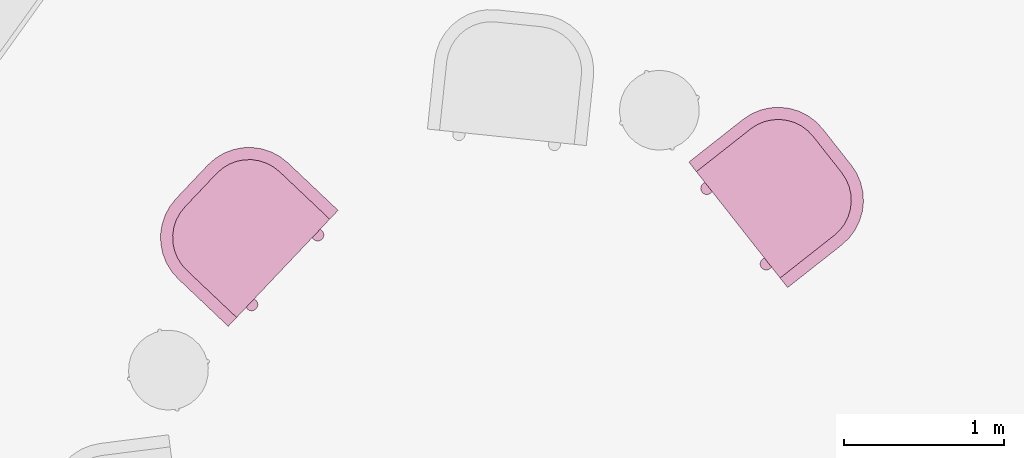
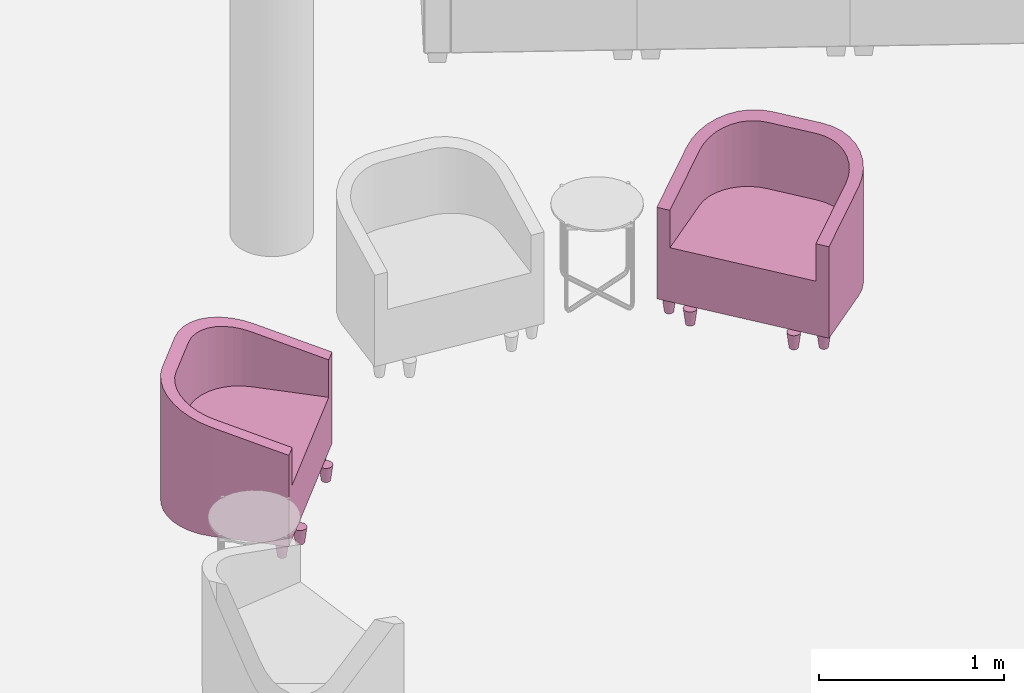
# One storey, part 21 of 36: 2 furnishings.
"""IFC2X3 building model written with IfcOpenShell, lengths in metres."""

from ifc_helpers import new_model, entity, si_unit, converted_unit, derived_unit, money_unit, direction, frame, origin_with_axes, place, context, subcontext, project, spatial, faceted_brep, source, transform, mapped, type_object, element, save


model = new_model("IFC2X3")

# Units and contexts
model_context = context("Model", 3, precision=1e-05, world=origin_with_axes(), true_north=direction((0.0, 1.0)))
body_context = subcontext(model_context, "Body", "Model", "MODEL_VIEW")
ifc_project = project(units=[si_unit("LENGTHUNIT", "METRE"), si_unit("AREAUNIT", "SQUARE_METRE"), si_unit("VOLUMEUNIT", "CUBIC_METRE"), converted_unit("PLANEANGLEUNIT", "DEGREE", entity("IfcPlaneAngleMeasure", 0.0174532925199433), si_unit("PLANEANGLEUNIT", "RADIAN"), dimensions=[0, 0, 0, 0, 0, 0, 0]), money_unit("EUR"), converted_unit("TIMEUNIT", "Year", entity("IfcTimeMeasure", 31556926.0), si_unit("TIMEUNIT", "SECOND"), dimensions=[0, 0, 1, 0, 0, 0, 0]), si_unit("MASSUNIT", "GRAM", prefix="KILO"), si_unit("THERMODYNAMICTEMPERATUREUNIT", "DEGREE_CELSIUS"), si_unit("LUMINOUSINTENSITYUNIT", "LUMEN"), si_unit("ENERGYUNIT", "JOULE", prefix="MEGA"), derived_unit("THERMALCONDUCTANCEUNIT", [(si_unit("POWERUNIT", "WATT"), 1), (si_unit("LENGTHUNIT", "METRE"), -1), (si_unit("THERMODYNAMICTEMPERATUREUNIT", "KELVIN"), -1)]), derived_unit("SPECIFICHEATCAPACITYUNIT", [(si_unit("ENERGYUNIT", "JOULE"), 1), (si_unit("MASSUNIT", "GRAM", prefix="KILO"), -1), (si_unit("THERMODYNAMICTEMPERATUREUNIT", "KELVIN"), -1)]), derived_unit("MASSDENSITYUNIT", [(si_unit("MASSUNIT", "GRAM", prefix="KILO"), 1), (si_unit("VOLUMEUNIT", "CUBIC_METRE"), -1)])], contexts=[model_context])

# Site, building, storey
site_placement = place(None, frame((-3.949935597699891, 1.740105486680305, 0.0), z_axis=(0.0, 0.0, 1.0), x_axis=(0.8799804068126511, -0.475009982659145, 0.0)))
site = spatial("IfcSite", under=ifc_project, at=site_placement, Name="Gelände", CompositionType="ELEMENT")
building_placement = place(site_placement, origin_with_axes())
building = spatial("IfcBuilding", under=site, at=building_placement, Name="Gebäude", CompositionType="ELEMENT")
storey_placement = place(building_placement, origin_with_axes())
storey = spatial("IfcBuildingStorey", under=building, at=storey_placement, Name="Erdgeschoss", CompositionType="ELEMENT", Elevation=0.0)

# Furnishings
furniture_type = type_object("IfcFurnitureType", Name="bucket chair (1)", AssemblyPlace="NOTDEFINED")
shared_shape = source(origin_with_axes(), body_context, "Body", "Brep", [
    faceted_brep([(0.47421411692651, 0.73188933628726, 0.0), (0.4746, 0.7363000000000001, 0.0), (0.4873, 0.7363000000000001, 0.1016), (0.4867211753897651, 0.72968400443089, 0.1016), (0.473068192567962, 0.7276126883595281, 0.0), (0.4711970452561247, 0.7236000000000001, 0.0), (0.468657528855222, 0.719973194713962, 0.0), (0.4655268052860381, 0.7168424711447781, 0.0), (0.4619, 0.7143029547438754, 0.0), (0.457887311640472, 0.712431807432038, 0.0), (0.45361066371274, 0.71128588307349, 0.0), (0.4492, 0.7109000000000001, 0.0), (0.44478933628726, 0.71128588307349, 0.0), (0.440512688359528, 0.712431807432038, 0.0), (0.4365, 0.7143029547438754, 0.0), (0.4328731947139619, 0.7168424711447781, 0.0), (0.429742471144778, 0.719973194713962, 0.0), (0.4272029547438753, 0.7236000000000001, 0.0), (0.4253318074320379, 0.7276126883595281, 0.0), (0.4241858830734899, 0.73188933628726, 0.0), (0.4238, 0.7363000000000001, 0.0), (0.4241858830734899, 0.7407106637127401, 0.0), (0.4253318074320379, 0.744987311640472, 0.0), (0.4272029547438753, 0.7490000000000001, 0.0), (0.429742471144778, 0.7526268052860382, 0.0), (0.4328731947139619, 0.7557575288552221, 0.0), (0.4365, 0.7582970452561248, 0.0), (0.440512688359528, 0.7601681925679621, 0.0), (0.44478933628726, 0.7613141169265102, 0.0), (0.4492, 0.7617, 0.0), (0.45361066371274, 0.7613141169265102, 0.0), (0.457887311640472, 0.7601681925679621, 0.0), (0.4619, 0.7582970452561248, 0.0), (0.4655268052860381, 0.7557575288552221, 0.0), (0.468657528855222, 0.7526268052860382, 0.0), (0.4711970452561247, 0.7490000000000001, 0.0), (0.4730681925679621, 0.744987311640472, 0.0), (0.4742141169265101, 0.7407106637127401, 0.0), (0.4867211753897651, 0.7429159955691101, 0.1016), (0.4850022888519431, 0.749330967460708, 0.1016), (0.4821955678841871, 0.7553500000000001, 0.1016), (0.4783862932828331, 0.7607902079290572, 0.1016), (0.4736902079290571, 0.7654862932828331, 0.1016), (0.46825, 0.7692955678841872, 0.1016), (0.462230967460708, 0.7721022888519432, 0.1016), (0.45581599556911, 0.7738211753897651, 0.1016), (0.4492, 0.7744000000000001, 0.1016), (0.44258400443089, 0.7738211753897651, 0.1016), (0.436169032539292, 0.7721022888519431, 0.1016), (0.43015, 0.7692955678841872, 0.1016), (0.4247097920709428, 0.7654862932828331, 0.1016), (0.420013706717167, 0.7607902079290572, 0.1016), (0.4162044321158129, 0.7553500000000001, 0.1016), (0.4133977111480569, 0.749330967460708, 0.1016), (0.4116788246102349, 0.7429159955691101, 0.1016), (0.4111, 0.7363000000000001, 0.1016), (0.4116788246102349, 0.72968400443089, 0.1016), (0.4133977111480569, 0.7232690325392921, 0.1016), (0.4162044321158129, 0.71725, 0.1016), (0.420013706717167, 0.711809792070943, 0.1016), (0.4247097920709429, 0.707113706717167, 0.1016), (0.43015, 0.703304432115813, 0.1016), (0.436169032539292, 0.700497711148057, 0.1016), (0.44258400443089, 0.698778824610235, 0.1016), (0.4492, 0.6982000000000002, 0.1016), (0.45581599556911, 0.698778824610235, 0.1016), (0.462230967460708, 0.700497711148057, 0.1016), (0.4682499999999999, 0.7033044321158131, 0.1016), (0.4736902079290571, 0.707113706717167, 0.1016), (0.478386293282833, 0.711809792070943, 0.1016), (0.482195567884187, 0.71725, 0.1016), (0.485002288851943, 0.7232690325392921, 0.1016)], [[[0, 1, 2, 3]], [[0, 4, 5, 6, 7, 8, 9, 10, 11, 12, 13, 14, 15, 16, 17, 18, 19, 20, 21, 22, 23, 24, 25, 26, 27, 28, 29, 30, 31, 32, 33, 34, 35, 36, 37, 1]], [[1, 37, 38, 2]], [[3, 2, 38, 39, 40, 41, 42, 43, 44, 45, 46, 47, 48, 49, 50, 51, 52, 53, 54, 55, 56, 57, 58, 59, 60, 61, 62, 63, 64, 65, 66, 67, 68, 69, 70, 71]], [[4, 0, 3, 71]], [[5, 4, 71, 70]], [[6, 5, 70, 69]], [[7, 6, 69, 68]], [[8, 7, 68, 67]], [[9, 8, 67, 66]], [[10, 9, 66, 65]], [[11, 10, 65, 64]], [[12, 11, 64, 63]], [[13, 12, 63, 62]], [[14, 13, 62, 61]], [[15, 14, 61, 60]], [[16, 15, 60, 59]], [[17, 16, 59, 58]], [[18, 17, 58, 57]], [[19, 18, 57, 56]], [[20, 19, 56, 55]], [[21, 20, 55, 54]], [[22, 21, 54, 53]], [[23, 22, 53, 52]], [[24, 23, 52, 51]], [[25, 24, 51, 50]], [[26, 25, 50, 49]], [[27, 26, 49, 48]], [[28, 27, 48, 47]], [[29, 28, 47, 46]], [[30, 29, 46, 45]], [[31, 30, 45, 44]], [[32, 31, 44, 43]], [[33, 32, 43, 42]], [[34, 33, 42, 41]], [[35, 34, 41, 40]], [[36, 35, 40, 39]], [[37, 36, 39, 38]]]),
    faceted_brep([(-0.42418588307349, 0.73188933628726, 0.0), (-0.4238, 0.7363000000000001, 0.0), (-0.4111, 0.7363000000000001, 0.1016), (-0.4116788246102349, 0.72968400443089, 0.1016), (-0.425331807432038, 0.7276126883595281, 0.0), (-0.4272029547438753, 0.7236000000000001, 0.0), (-0.429742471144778, 0.719973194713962, 0.0), (-0.4328731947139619, 0.7168424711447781, 0.0), (-0.4365, 0.7143029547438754, 0.0), (-0.440512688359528, 0.712431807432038, 0.0), (-0.44478933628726, 0.71128588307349, 0.0), (-0.4492, 0.7109000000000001, 0.0), (-0.45361066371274, 0.71128588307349, 0.0), (-0.457887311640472, 0.712431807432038, 0.0), (-0.4619, 0.7143029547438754, 0.0), (-0.4655268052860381, 0.7168424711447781, 0.0), (-0.468657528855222, 0.719973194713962, 0.0), (-0.4711970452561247, 0.7236000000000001, 0.0), (-0.4730681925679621, 0.7276126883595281, 0.0), (-0.4742141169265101, 0.73188933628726, 0.0), (-0.4746, 0.7363000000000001, 0.0), (-0.4742141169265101, 0.7407106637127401, 0.0), (-0.4730681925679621, 0.744987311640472, 0.0), (-0.4711970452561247, 0.7490000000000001, 0.0), (-0.468657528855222, 0.7526268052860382, 0.0), (-0.4655268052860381, 0.7557575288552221, 0.0), (-0.4619, 0.7582970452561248, 0.0), (-0.457887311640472, 0.7601681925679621, 0.0), (-0.45361066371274, 0.7613141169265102, 0.0), (-0.4492, 0.7617, 0.0), (-0.44478933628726, 0.7613141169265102, 0.0), (-0.440512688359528, 0.7601681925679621, 0.0), (-0.4365, 0.7582970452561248, 0.0), (-0.4328731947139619, 0.7557575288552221, 0.0), (-0.4297424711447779, 0.7526268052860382, 0.0), (-0.4272029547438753, 0.7490000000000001, 0.0), (-0.4253318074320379, 0.744987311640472, 0.0), (-0.4241858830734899, 0.7407106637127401, 0.0), (-0.4116788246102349, 0.7429159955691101, 0.1016), (-0.4133977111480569, 0.749330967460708, 0.1016), (-0.4162044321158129, 0.7553500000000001, 0.1016), (-0.4200137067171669, 0.7607902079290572, 0.1016), (-0.4247097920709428, 0.7654862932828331, 0.1016), (-0.43015, 0.7692955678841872, 0.1016), (-0.436169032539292, 0.7721022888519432, 0.1016), (-0.44258400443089, 0.7738211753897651, 0.1016), (-0.4492, 0.7744000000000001, 0.1016), (-0.45581599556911, 0.7738211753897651, 0.1016), (-0.462230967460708, 0.7721022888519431, 0.1016), (-0.4682499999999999, 0.7692955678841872, 0.1016), (-0.4736902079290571, 0.7654862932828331, 0.1016), (-0.478386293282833, 0.7607902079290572, 0.1016), (-0.482195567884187, 0.7553500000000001, 0.1016), (-0.4850022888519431, 0.749330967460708, 0.1016), (-0.4867211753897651, 0.7429159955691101, 0.1016), (-0.4873, 0.7363000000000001, 0.1016), (-0.4867211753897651, 0.72968400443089, 0.1016), (-0.4850022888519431, 0.7232690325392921, 0.1016), (-0.482195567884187, 0.71725, 0.1016), (-0.478386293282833, 0.711809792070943, 0.1016), (-0.4736902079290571, 0.707113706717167, 0.1016), (-0.4682499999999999, 0.703304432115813, 0.1016), (-0.462230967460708, 0.700497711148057, 0.1016), (-0.45581599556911, 0.698778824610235, 0.1016), (-0.4492, 0.6982000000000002, 0.1016), (-0.44258400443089, 0.698778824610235, 0.1016), (-0.436169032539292, 0.700497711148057, 0.1016), (-0.43015, 0.7033044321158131, 0.1016), (-0.4247097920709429, 0.707113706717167, 0.1016), (-0.420013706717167, 0.711809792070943, 0.1016), (-0.4162044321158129, 0.71725, 0.1016), (-0.413397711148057, 0.7232690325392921, 0.1016)], [[[0, 1, 2, 3]], [[0, 4, 5, 6, 7, 8, 9, 10, 11, 12, 13, 14, 15, 16, 17, 18, 19, 20, 21, 22, 23, 24, 25, 26, 27, 28, 29, 30, 31, 32, 33, 34, 35, 36, 37, 1]], [[1, 37, 38, 2]], [[3, 2, 38, 39, 40, 41, 42, 43, 44, 45, 46, 47, 48, 49, 50, 51, 52, 53, 54, 55, 56, 57, 58, 59, 60, 61, 62, 63, 64, 65, 66, 67, 68, 69, 70, 71]], [[4, 0, 3, 71]], [[5, 4, 71, 70]], [[6, 5, 70, 69]], [[7, 6, 69, 68]], [[8, 7, 68, 67]], [[9, 8, 67, 66]], [[10, 9, 66, 65]], [[11, 10, 65, 64]], [[12, 11, 64, 63]], [[13, 12, 63, 62]], [[14, 13, 62, 61]], [[15, 14, 61, 60]], [[16, 15, 60, 59]], [[17, 16, 59, 58]], [[18, 17, 58, 57]], [[19, 18, 57, 56]], [[20, 19, 56, 55]], [[21, 20, 55, 54]], [[22, 21, 54, 53]], [[23, 22, 53, 52]], [[24, 23, 52, 51]], [[25, 24, 51, 50]], [[26, 25, 50, 49]], [[27, 26, 49, 48]], [[28, 27, 48, 47]], [[29, 28, 47, 46]], [[30, 29, 46, 45]], [[31, 30, 45, 44]], [[32, 31, 44, 43]], [[33, 32, 43, 42]], [[34, 33, 42, 41]], [[35, 34, 41, 40]], [[36, 35, 40, 39]], [[37, 36, 39, 38]]]),
    faceted_brep([(0.3258141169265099, 0.7963893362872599, 0.0), (0.3261999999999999, 0.8008, 0.0), (0.3388999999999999, 0.8008, 0.1016), (0.338321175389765, 0.7941840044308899, 0.1016), (0.3246681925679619, 0.792112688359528, 0.0), (0.3227970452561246, 0.7881, 0.0), (0.3202575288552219, 0.7844731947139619, 0.0), (0.317126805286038, 0.781342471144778, 0.0), (0.3134999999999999, 0.7788029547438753, 0.0), (0.3094873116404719, 0.7769318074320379, 0.0), (0.3052106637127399, 0.77578588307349, 0.0), (0.3007999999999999, 0.7754, 0.0), (0.2963893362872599, 0.77578588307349, 0.0), (0.2921126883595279, 0.7769318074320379, 0.0), (0.2880999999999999, 0.7788029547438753, 0.0), (0.2844731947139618, 0.781342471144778, 0.0), (0.2813424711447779, 0.7844731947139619, 0.0), (0.2788029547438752, 0.7881, 0.0), (0.2769318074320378, 0.792112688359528, 0.0), (0.2757858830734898, 0.7963893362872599, 0.0), (0.2753999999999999, 0.8008, 0.0), (0.2757858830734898, 0.80521066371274, 0.0), (0.2769318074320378, 0.8094873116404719, 0.0), (0.2788029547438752, 0.8135, 0.0), (0.2813424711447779, 0.8171268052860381, 0.0), (0.2844731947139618, 0.820257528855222, 0.0), (0.2880999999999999, 0.8227970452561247, 0.0), (0.2921126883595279, 0.824668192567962, 0.0), (0.2963893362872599, 0.8258141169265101, 0.0), (0.3007999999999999, 0.8261999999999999, 0.0), (0.3052106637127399, 0.8258141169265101, 0.0), (0.3094873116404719, 0.824668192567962, 0.0), (0.3134999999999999, 0.8227970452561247, 0.0), (0.317126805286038, 0.820257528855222, 0.0), (0.320257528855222, 0.8171268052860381, 0.0), (0.3227970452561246, 0.8135, 0.0), (0.324668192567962, 0.8094873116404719, 0.0), (0.32581411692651, 0.80521066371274, 0.0), (0.338321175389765, 0.80741599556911, 0.1016), (0.336602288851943, 0.8138309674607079, 0.1016), (0.333795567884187, 0.81985, 0.1016), (0.329986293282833, 0.825290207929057, 0.1016), (0.3252902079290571, 0.829986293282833, 0.1016), (0.3198499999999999, 0.8337955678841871, 0.1016), (0.3138309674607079, 0.8366022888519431, 0.1016), (0.3074159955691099, 0.838321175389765, 0.1016), (0.3007999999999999, 0.8389, 0.1016), (0.2941840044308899, 0.838321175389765, 0.1016), (0.2877690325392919, 0.8366022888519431, 0.1016), (0.2817499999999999, 0.8337955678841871, 0.1016), (0.2763097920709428, 0.829986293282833, 0.1016), (0.2716137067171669, 0.825290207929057, 0.1016), (0.2678044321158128, 0.81985, 0.1016), (0.2649977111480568, 0.8138309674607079, 0.1016), (0.2632788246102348, 0.80741599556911, 0.1016), (0.2626999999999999, 0.8008, 0.1016), (0.2632788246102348, 0.7941840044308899, 0.1016), (0.2649977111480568, 0.787769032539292, 0.1016), (0.2678044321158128, 0.78175, 0.1016), (0.2716137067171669, 0.7763097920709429, 0.1016), (0.2763097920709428, 0.7716137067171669, 0.1016), (0.2817499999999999, 0.7678044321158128, 0.1016), (0.2877690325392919, 0.7649977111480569, 0.1016), (0.2941840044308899, 0.7632788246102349, 0.1016), (0.3007999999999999, 0.7627, 0.1016), (0.3074159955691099, 0.7632788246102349, 0.1016), (0.3138309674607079, 0.7649977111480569, 0.1016), (0.3198499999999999, 0.767804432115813, 0.1016), (0.325290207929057, 0.7716137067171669, 0.1016), (0.3299862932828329, 0.7763097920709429, 0.1016), (0.333795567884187, 0.78175, 0.1016), (0.3366022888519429, 0.787769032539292, 0.1016)], [[[0, 1, 2, 3]], [[0, 4, 5, 6, 7, 8, 9, 10, 11, 12, 13, 14, 15, 16, 17, 18, 19, 20, 21, 22, 23, 24, 25, 26, 27, 28, 29, 30, 31, 32, 33, 34, 35, 36, 37, 1]], [[1, 37, 38, 2]], [[3, 2, 38, 39, 40, 41, 42, 43, 44, 45, 46, 47, 48, 49, 50, 51, 52, 53, 54, 55, 56, 57, 58, 59, 60, 61, 62, 63, 64, 65, 66, 67, 68, 69, 70, 71]], [[4, 0, 3, 71]], [[5, 4, 71, 70]], [[6, 5, 70, 69]], [[7, 6, 69, 68]], [[8, 7, 68, 67]], [[9, 8, 67, 66]], [[10, 9, 66, 65]], [[11, 10, 65, 64]], [[12, 11, 64, 63]], [[13, 12, 63, 62]], [[14, 13, 62, 61]], [[15, 14, 61, 60]], [[16, 15, 60, 59]], [[17, 16, 59, 58]], [[18, 17, 58, 57]], [[19, 18, 57, 56]], [[20, 19, 56, 55]], [[21, 20, 55, 54]], [[22, 21, 54, 53]], [[23, 22, 53, 52]], [[24, 23, 52, 51]], [[25, 24, 51, 50]], [[26, 25, 50, 49]], [[27, 26, 49, 48]], [[28, 27, 48, 47]], [[29, 28, 47, 46]], [[30, 29, 46, 45]], [[31, 30, 45, 44]], [[32, 31, 44, 43]], [[33, 32, 43, 42]], [[34, 33, 42, 41]], [[35, 34, 41, 40]], [[36, 35, 40, 39]], [[37, 36, 39, 38]]]),
    faceted_brep([(-0.2757858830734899, 0.7963893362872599, 0.0), (-0.2753999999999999, 0.8008, 0.0), (-0.2626999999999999, 0.8008, 0.1016), (-0.2632788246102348, 0.7941840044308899, 0.1016), (-0.2769318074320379, 0.792112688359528, 0.0), (-0.2788029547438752, 0.7881, 0.0), (-0.2813424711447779, 0.7844731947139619, 0.0), (-0.2844731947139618, 0.781342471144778, 0.0), (-0.2880999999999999, 0.7788029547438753, 0.0), (-0.2921126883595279, 0.7769318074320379, 0.0), (-0.2963893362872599, 0.77578588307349, 0.0), (-0.3007999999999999, 0.7754, 0.0), (-0.3052106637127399, 0.77578588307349, 0.0), (-0.3094873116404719, 0.7769318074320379, 0.0), (-0.3134999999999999, 0.7788029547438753, 0.0), (-0.317126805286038, 0.781342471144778, 0.0), (-0.3202575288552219, 0.7844731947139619, 0.0), (-0.3227970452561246, 0.7881, 0.0), (-0.324668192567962, 0.792112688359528, 0.0), (-0.32581411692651, 0.7963893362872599, 0.0), (-0.3261999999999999, 0.8008, 0.0), (-0.32581411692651, 0.80521066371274, 0.0), (-0.324668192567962, 0.8094873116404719, 0.0), (-0.3227970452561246, 0.8135, 0.0), (-0.3202575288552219, 0.8171268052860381, 0.0), (-0.317126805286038, 0.820257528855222, 0.0), (-0.3134999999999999, 0.8227970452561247, 0.0), (-0.3094873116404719, 0.824668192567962, 0.0), (-0.3052106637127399, 0.8258141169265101, 0.0), (-0.3007999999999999, 0.8261999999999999, 0.0), (-0.2963893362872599, 0.8258141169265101, 0.0), (-0.2921126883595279, 0.824668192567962, 0.0), (-0.2880999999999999, 0.8227970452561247, 0.0), (-0.2844731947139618, 0.820257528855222, 0.0), (-0.2813424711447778, 0.8171268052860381, 0.0), (-0.2788029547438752, 0.8135, 0.0), (-0.2769318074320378, 0.8094873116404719, 0.0), (-0.2757858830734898, 0.80521066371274, 0.0), (-0.2632788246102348, 0.80741599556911, 0.1016), (-0.2649977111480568, 0.8138309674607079, 0.1016), (-0.2678044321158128, 0.81985, 0.1016), (-0.2716137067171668, 0.825290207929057, 0.1016), (-0.2763097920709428, 0.829986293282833, 0.1016), (-0.2817499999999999, 0.8337955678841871, 0.1016), (-0.2877690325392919, 0.8366022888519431, 0.1016), (-0.2941840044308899, 0.838321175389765, 0.1016), (-0.3007999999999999, 0.8389, 0.1016), (-0.3074159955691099, 0.838321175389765, 0.1016), (-0.3138309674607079, 0.8366022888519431, 0.1016), (-0.3198499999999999, 0.8337955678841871, 0.1016), (-0.3252902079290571, 0.829986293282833, 0.1016), (-0.3299862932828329, 0.825290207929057, 0.1016), (-0.333795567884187, 0.81985, 0.1016), (-0.336602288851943, 0.8138309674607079, 0.1016), (-0.338321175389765, 0.80741599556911, 0.1016), (-0.3388999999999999, 0.8008, 0.1016), (-0.338321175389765, 0.7941840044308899, 0.1016), (-0.336602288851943, 0.787769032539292, 0.1016), (-0.333795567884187, 0.78175, 0.1016), (-0.3299862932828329, 0.7763097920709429, 0.1016), (-0.325290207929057, 0.7716137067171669, 0.1016), (-0.3198499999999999, 0.7678044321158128, 0.1016), (-0.3138309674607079, 0.7649977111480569, 0.1016), (-0.3074159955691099, 0.7632788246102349, 0.1016), (-0.3007999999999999, 0.7627, 0.1016), (-0.2941840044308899, 0.7632788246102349, 0.1016), (-0.2877690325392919, 0.7649977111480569, 0.1016), (-0.2817499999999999, 0.767804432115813, 0.1016), (-0.2763097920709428, 0.7716137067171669, 0.1016), (-0.2716137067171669, 0.7763097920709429, 0.1016), (-0.2678044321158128, 0.78175, 0.1016), (-0.2649977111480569, 0.787769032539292, 0.1016)], [[[0, 1, 2, 3]], [[0, 4, 5, 6, 7, 8, 9, 10, 11, 12, 13, 14, 15, 16, 17, 18, 19, 20, 21, 22, 23, 24, 25, 26, 27, 28, 29, 30, 31, 32, 33, 34, 35, 36, 37, 1]], [[1, 37, 38, 2]], [[3, 2, 38, 39, 40, 41, 42, 43, 44, 45, 46, 47, 48, 49, 50, 51, 52, 53, 54, 55, 56, 57, 58, 59, 60, 61, 62, 63, 64, 65, 66, 67, 68, 69, 70, 71]], [[4, 0, 3, 71]], [[5, 4, 71, 70]], [[6, 5, 70, 69]], [[7, 6, 69, 68]], [[8, 7, 68, 67]], [[9, 8, 67, 66]], [[10, 9, 66, 65]], [[11, 10, 65, 64]], [[12, 11, 64, 63]], [[13, 12, 63, 62]], [[14, 13, 62, 61]], [[15, 14, 61, 60]], [[16, 15, 60, 59]], [[17, 16, 59, 58]], [[18, 17, 58, 57]], [[19, 18, 57, 56]], [[20, 19, 56, 55]], [[21, 20, 55, 54]], [[22, 21, 54, 53]], [[23, 22, 53, 52]], [[24, 23, 52, 51]], [[25, 24, 51, 50]], [[26, 25, 50, 49]], [[27, 26, 49, 48]], [[28, 27, 48, 47]], [[29, 28, 47, 46]], [[30, 29, 46, 45]], [[31, 30, 45, 44]], [[32, 31, 44, 43]], [[33, 32, 43, 42]], [[34, 33, 42, 41]], [[35, 34, 41, 40]], [[36, 35, 40, 39]], [[37, 36, 39, 38]]]),
    faceted_brep([(-0.5, 0.7871, 0.1016), (-0.5, 0.3556, 0.1016), (-0.5, 0.3556, 0.8191172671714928), (-0.5, 0.7871, 0.7034971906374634), (-0.4238, 0.7871, 0.1016), (-0.4238, 0.3556000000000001, 0.1016), (-0.4195552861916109, 0.3070826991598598, 0.1016), (-0.4069501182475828, 0.2600395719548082, 0.1016), (-0.3863674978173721, 0.2159000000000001, 0.1016), (-0.3584328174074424, 0.176005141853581, 0.1016), (-0.323994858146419, 0.1415671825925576, 0.1016), (-0.2841, 0.1136325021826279, 0.1016), (-0.2399604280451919, 0.09304988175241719, 0.1016), (-0.1929173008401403, 0.08044471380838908, 0.1016), (-0.1444, 0.0762, 0.1016), (0.1444000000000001, 0.07620000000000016, 0.1016), (0.1929173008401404, 0.08044471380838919, 0.1016), (0.2399604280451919, 0.0930498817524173, 0.1016), (0.2841, 0.1136325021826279, 0.1016), (0.3239948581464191, 0.1415671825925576, 0.1016), (0.3584328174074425, 0.176005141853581, 0.1016), (0.3863674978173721, 0.2159000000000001, 0.1016), (0.4069501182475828, 0.2600395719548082, 0.1016), (0.4195552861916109, 0.3070826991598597, 0.1016), (0.4238, 0.3556, 0.1016), (0.4238, 0.7871, 0.1016), (0.5, 0.7871, 0.1016), (0.4999999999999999, 0.3555999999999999, 0.1016), (0.494597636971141, 0.2938507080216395, 0.1016), (0.4785546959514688, 0.2339776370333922, 0.1016), (0.4523586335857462, 0.1778, 0.1016), (0.4168054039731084, 0.1270247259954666, 0.1016), (0.3729752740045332, 0.08319459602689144, 0.1016), (0.3221999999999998, 0.04764136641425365, 0.1016), (0.2660223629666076, 0.02144530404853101, 0.1016), (0.2061492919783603, 0.005402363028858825, 0.1016), (0.1444, 0.0, 0.1016), (0.0, 0.0, 0.1016), (-0.1444000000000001, 0.0, 0.1016), (-0.2061492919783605, 0.005402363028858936, 0.1016), (-0.2660223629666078, 0.02144530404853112, 0.1016), (-0.3222, 0.04764136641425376, 0.1016), (-0.3729752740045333, 0.08319459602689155, 0.1016), (-0.4168054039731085, 0.1270247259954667, 0.1016), (-0.4523586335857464, 0.1778000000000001, 0.1016), (-0.4785546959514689, 0.2339776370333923, 0.1016), (-0.4945976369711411, 0.2938507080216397, 0.1016), (-0.4945976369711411, 0.2938507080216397, 0.8356629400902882), (-0.4785546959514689, 0.2339776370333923, 0.8517058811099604), (-0.4523586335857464, 0.1778000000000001, 0.8667586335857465), (-0.4168054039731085, 0.1270247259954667, 0.8803638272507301), (-0.3729752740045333, 0.08319459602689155, 0.892108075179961), (-0.3222, 0.04764136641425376, 0.9016345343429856), (-0.2660223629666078, 0.02144530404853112, 0.9086537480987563), (-0.2061492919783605, 0.005402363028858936, 0.9129524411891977), (-0.1444000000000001, 0.0, 0.9144000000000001), (0.0, 0.0, 0.9144000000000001), (0.1444, 0.0, 0.9144000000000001), (0.2061492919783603, 0.005402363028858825, 0.9129524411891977), (0.2660223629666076, 0.02144530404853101, 0.9086537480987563), (0.3221999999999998, 0.04764136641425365, 0.9016345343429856), (0.3729752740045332, 0.08319459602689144, 0.8921080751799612), (0.4168054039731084, 0.1270247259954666, 0.8803638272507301), (0.4523586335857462, 0.1778, 0.8667586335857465), (0.4785546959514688, 0.2339776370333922, 0.8517058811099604), (0.494597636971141, 0.2938507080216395, 0.8356629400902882), (0.4999999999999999, 0.3555999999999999, 0.8191172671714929), (0.5, 0.7871, 0.7034971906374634), (0.4238, 0.7871, 0.7034971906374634), (0.4238, 0.3556, 0.8191172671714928), (0.4195552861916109, 0.3070826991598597, 0.8321174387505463), (0.4069501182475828, 0.2600395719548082, 0.8447226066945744), (0.3863674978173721, 0.2159000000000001, 0.8565497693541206), (0.3584328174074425, 0.176005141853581, 0.8672395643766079), (0.3239948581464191, 0.1415671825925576, 0.8764671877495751), (0.2841, 0.1136325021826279, 0.8839522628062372), (0.2399604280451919, 0.0930498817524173, 0.8894673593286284), (0.1929173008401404, 0.08044471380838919, 0.8928449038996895), (0.1444000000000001, 0.07620000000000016, 0.8939822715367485), (-0.1444, 0.0762, 0.8939822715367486), (-0.1929173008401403, 0.08044471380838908, 0.8928449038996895), (-0.2399604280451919, 0.09304988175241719, 0.8894673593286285), (-0.2841, 0.1136325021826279, 0.8839522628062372), (-0.323994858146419, 0.1415671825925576, 0.8764671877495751), (-0.3584328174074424, 0.176005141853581, 0.8672395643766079), (-0.3863674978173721, 0.2159000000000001, 0.8565497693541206), (-0.4069501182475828, 0.2600395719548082, 0.8447226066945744), (-0.4195552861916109, 0.3070826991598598, 0.8321174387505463), (-0.4238, 0.3556000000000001, 0.8191172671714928), (-0.4238, 0.7871, 0.7034971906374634)], [[[0, 1, 2, 3]], [[0, 4, 5, 6, 7, 8, 9, 10, 11, 12, 13, 14, 15, 16, 17, 18, 19, 20, 21, 22, 23, 24, 25, 26, 27, 28, 29, 30, 31, 32, 33, 34, 35, 36, 37, 38, 39, 40, 41, 42, 43, 44, 45, 46, 1]], [[1, 46, 47, 2]], [[3, 2, 47, 48, 49, 50, 51, 52, 53, 54, 55, 56, 57, 58, 59, 60, 61, 62, 63, 64, 65, 66, 67, 68, 69, 70, 71, 72, 73, 74, 75, 76, 77, 78, 79, 80, 81, 82, 83, 84, 85, 86, 87, 88, 89]], [[4, 0, 3, 89]], [[5, 4, 89, 88]], [[6, 5, 88, 87]], [[7, 6, 87, 86]], [[8, 7, 86, 85]], [[9, 8, 85, 84]], [[10, 9, 84, 83]], [[11, 10, 83, 82]], [[12, 11, 82, 81]], [[13, 12, 81, 80]], [[14, 13, 80, 79]], [[15, 14, 79, 78]], [[16, 15, 78, 77]], [[17, 16, 77, 76]], [[18, 17, 76, 75]], [[19, 18, 75, 74]], [[20, 19, 74, 73]], [[21, 20, 73, 72]], [[22, 21, 72, 71]], [[23, 22, 71, 70]], [[24, 23, 70, 69]], [[25, 24, 69, 68]], [[26, 25, 68, 67]], [[27, 26, 67, 66]], [[28, 27, 66, 65]], [[29, 28, 65, 64]], [[30, 29, 64, 63]], [[31, 30, 63, 62]], [[32, 31, 62, 61]], [[33, 32, 61, 60]], [[34, 33, 60, 59]], [[35, 34, 59, 58]], [[36, 35, 58, 57]], [[37, 36, 57, 56]], [[38, 37, 56, 55]], [[39, 38, 55, 54]], [[40, 39, 54, 53]], [[41, 40, 53, 52]], [[42, 41, 52, 51]], [[43, 42, 51, 50]], [[44, 43, 50, 49]], [[45, 44, 49, 48]], [[46, 45, 48, 47]]]),
    faceted_brep([(-0.4238, 0.7871, 0.1016), (-0.4238, 0.3556000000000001, 0.1016), (-0.4238, 0.3556000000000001, 0.4572000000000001), (-0.4238, 0.7871, 0.4572000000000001), (0.4238, 0.7871, 0.1016), (0.4238, 0.3556, 0.1016), (0.4195552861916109, 0.3070826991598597, 0.1016), (0.4069501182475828, 0.2600395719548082, 0.1016), (0.3863674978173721, 0.2159000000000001, 0.1016), (0.3584328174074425, 0.176005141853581, 0.1016), (0.3239948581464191, 0.1415671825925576, 0.1016), (0.2841, 0.1136325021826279, 0.1016), (0.2399604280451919, 0.0930498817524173, 0.1016), (0.1929173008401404, 0.08044471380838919, 0.1016), (0.1444000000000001, 0.07620000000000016, 0.1016), (-0.1444, 0.0762, 0.1016), (-0.1929173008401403, 0.08044471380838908, 0.1016), (-0.2399604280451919, 0.09304988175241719, 0.1016), (-0.2841, 0.1136325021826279, 0.1016), (-0.323994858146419, 0.1415671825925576, 0.1016), (-0.3584328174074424, 0.176005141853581, 0.1016), (-0.3863674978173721, 0.2159000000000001, 0.1016), (-0.4069501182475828, 0.2600395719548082, 0.1016), (-0.4195552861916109, 0.3070826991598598, 0.1016), (-0.4195552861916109, 0.3070826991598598, 0.4572000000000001), (-0.4069501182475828, 0.2600395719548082, 0.4572000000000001), (-0.3863674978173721, 0.2159000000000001, 0.4572000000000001), (-0.3584328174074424, 0.176005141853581, 0.4572000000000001), (-0.323994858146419, 0.1415671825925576, 0.4572000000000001), (-0.2841, 0.1136325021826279, 0.4572000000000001), (-0.2399604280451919, 0.09304988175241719, 0.4572000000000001), (-0.1929173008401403, 0.08044471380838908, 0.4572000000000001), (-0.1444, 0.0762, 0.4572000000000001), (0.1444000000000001, 0.07620000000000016, 0.4572000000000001), (0.1929173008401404, 0.08044471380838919, 0.4572000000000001), (0.2399604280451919, 0.0930498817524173, 0.4572000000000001), (0.2841, 0.1136325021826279, 0.4572000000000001), (0.3239948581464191, 0.1415671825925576, 0.4572000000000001), (0.3584328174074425, 0.176005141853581, 0.4572000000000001), (0.3863674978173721, 0.2159000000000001, 0.4572000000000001), (0.4069501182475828, 0.2600395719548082, 0.4572000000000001), (0.4195552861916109, 0.3070826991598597, 0.4572000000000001), (0.4238, 0.3556, 0.4572000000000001), (0.4238, 0.7871, 0.4572000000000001)], [[[0, 1, 2, 3]], [[0, 4, 5, 6, 7, 8, 9, 10, 11, 12, 13, 14, 15, 16, 17, 18, 19, 20, 21, 22, 23, 1]], [[1, 23, 24, 2]], [[3, 2, 24, 25, 26, 27, 28, 29, 30, 31, 32, 33, 34, 35, 36, 37, 38, 39, 40, 41, 42, 43]], [[4, 0, 3, 43]], [[5, 4, 43, 42]], [[6, 5, 42, 41]], [[7, 6, 41, 40]], [[8, 7, 40, 39]], [[9, 8, 39, 38]], [[10, 9, 38, 37]], [[11, 10, 37, 36]], [[12, 11, 36, 35]], [[13, 12, 35, 34]], [[14, 13, 34, 33]], [[15, 14, 33, 32]], [[16, 15, 32, 31]], [[17, 16, 31, 30]], [[18, 17, 30, 29]], [[19, 18, 29, 28]], [[20, 19, 28, 27]], [[21, 20, 27, 26]], [[22, 21, 26, 25]], [[23, 22, 25, 24]]]),
])
for number, where, z_axis, x_axis, name in (
    (1, (22.21138066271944, 4.497081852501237, 0.0), (0.0, 0.0, 1.0), (-0.2601094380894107, -0.9655791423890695, 0.0), "Objekt-0069"),
    (2, (25.66257530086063, 6.607977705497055, 0.0), (0.0, 0.0, 1.0), (-0.9175923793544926, 0.3975226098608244, 0.0), "Objekt-0069"),
):
    element("IfcFurnishingElement", number, at=place(storey_placement, frame(where, z_axis=z_axis, x_axis=x_axis)), inside=storey, type_object=furniture_type, Name=name, ObjectType="FURNITURE", context=body_context, shape_type="MappedRepresentation", body=[
        mapped(shared_shape, transform((0.0, 0.0, 0.0))),
    ])

save(model, "model.ifc")
